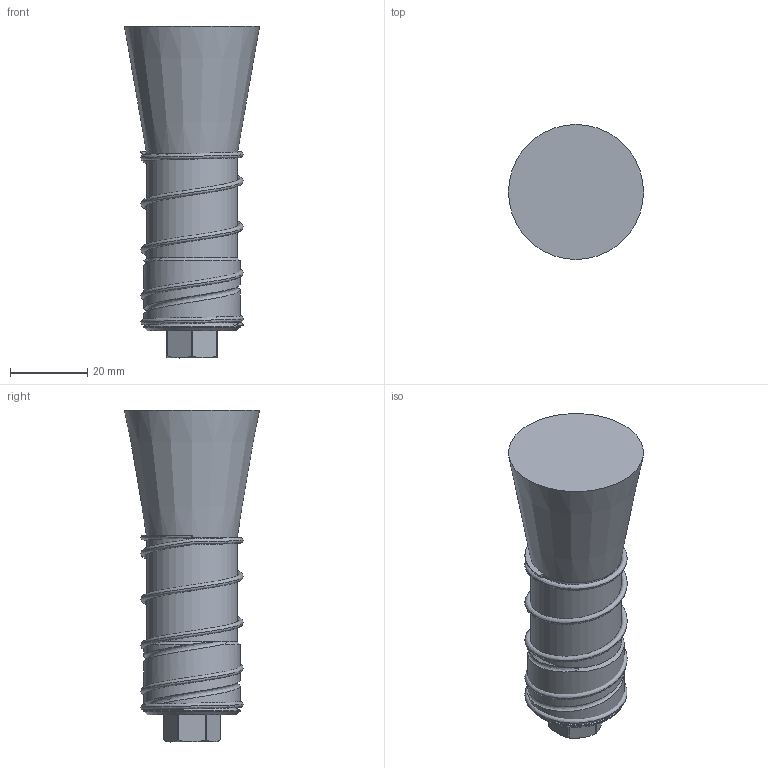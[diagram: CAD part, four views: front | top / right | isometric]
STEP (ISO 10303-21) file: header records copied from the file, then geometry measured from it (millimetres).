
FILE_DESCRIPTION (( 'STEP AP214' ), '1' );
FILE_NAME ('012_0125_0160_50.STEP', '2026-01-21T09:08:34', ( '' ), ( '' ), 'SwSTEP 2.0', 'SolidWorks 2022', '' );
FILE_SCHEMA (( 'AUTOMOTIVE_DESIGN' ));
Length unit declared in the file: millimetre
Products named in the file (3): 012_0125_0160_50; VD_207JL_1
Assembly tree (2 placements, depth 2):
  012_0125_0160_50
    012_0125_0160_50
    VD_207JL_1
Bounding box: 35 x 35 x 86 mm (x, y, z)
Volume: 44583 mm3; surface area: 10685.7 mm2
Topology: 2 solids, 2 shells, 42 faces, 101 edges, 66 vertices
Faces by surface type: plane 14, cylinder 12, cone 11, bspline 5
Full cylindrical faces by diameter (mm): 2 x1, 8.57 x1, 23.5 x1, 25 x1
Entity records: 11597 total; most frequent: CARTESIAN_POINT 10652, ORIENTED_EDGE 168, DIRECTION 138, EDGE_CURVE 84, AXIS2_PLACEMENT_3D 59, VERTEX_POINT 59, EDGE_LOOP 53, B_SPLINE_CURVE_WITH_KNOTS 47
